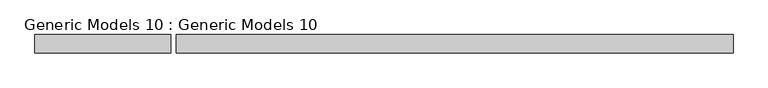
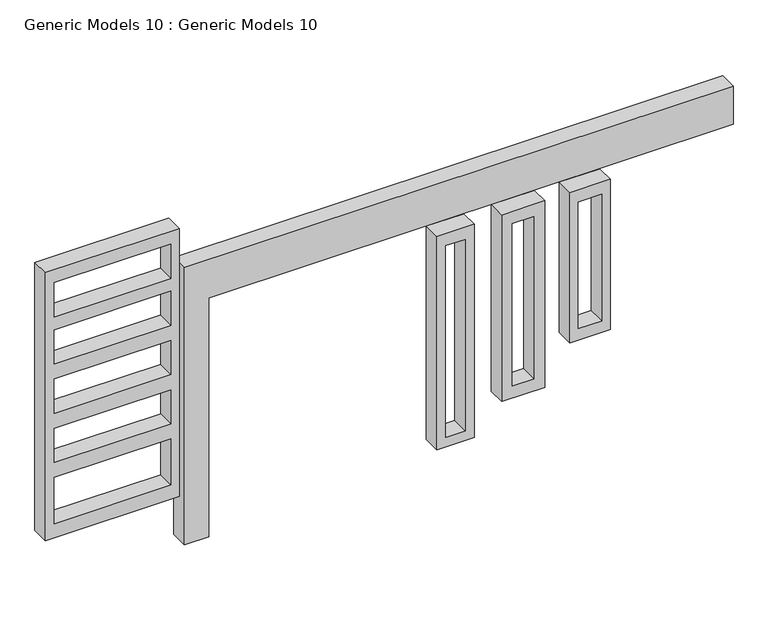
"""IFC4 building model written with IfcOpenShell, lengths in millimetres: proxy geometry, Generic Models 10 : Generic Models 10."""

import ifcopenshell
import ifcopenshell.guid

model = None  # the IFC model being written
_history = None  # IfcOwnerHistory: only IFC2X3 demands one
_inside = {}  # id of a spatial element -> (the spatial element, [elements in it])
_under = {}  # id of a project, library or spatial element -> (it, [spatial elements below it])
_declared = {}  # id of a project -> (the project, [libraries it declares])
_typed = {}  # id of a type object -> (the type object, [elements of that type])
_made_of = {}  # id of a material, layer set ... -> (it, [elements and type objects made of it])


def new_model(schema):
    """Start an empty IFC model of exactly this schema.

    Asked for "IFC4X3", IfcOpenShell would pick the latest addendum, in which some entities
    have other attributes; the version numbers below select the first issue.
    IFC2X3 requires an IfcOwnerHistory on every rooted entity: one is made here for all.
    """
    global model, _history
    if schema == "IFC4X3":
        model = ifcopenshell.file(schema_version=(4, 3, 0, 0))
    else:
        model = ifcopenshell.file(schema=schema)
    _inside.clear()
    _under.clear()
    _declared.clear()
    _typed.clear()
    _made_of.clear()
    _history = None
    if model.schema == "IFC2X3":
        org = make("IfcOrganization", Name="unknown")
        user = make(
            "IfcPersonAndOrganization",
            ThePerson=make("IfcPerson", FamilyName="unknown"),
            TheOrganization=org,
        )
        app = make(
            "IfcApplication",
            ApplicationDeveloper=org,
            Version="unknown",
            ApplicationFullName="unknown",
            ApplicationIdentifier="unknown",
        )
        _history = make(
            "IfcOwnerHistory",
            OwningUser=user,
            OwningApplication=app,
            ChangeAction="ADDED",
            CreationDate=0,
        )
    return model


def make(cls, **values):
    """One entity of the class cls with the attributes given. An attribute that is None is left unset."""
    return model.create_entity(
        cls, **{name: value for name, value in values.items() if value is not None}
    )


def rooted(cls, **values):
    """An entity with a GlobalId (a new one), such as an element, a storey or a relation."""
    return make(cls, GlobalId=ifcopenshell.guid.new(), OwnerHistory=_history, **values)


def si_unit(unit_type, name, prefix=None):
    """IfcSIUnit, for example si_unit("LENGTHUNIT", "METRE", prefix="MILLI")."""
    return make("IfcSIUnit", UnitType=unit_type, Prefix=prefix, Name=name)


def assignment(units):
    """IfcUnitAssignment: the units of a project."""
    return None if units is None else make("IfcUnitAssignment", Units=units)


def point(xyz):
    """IfcCartesianPoint."""
    return None if xyz is None else make("IfcCartesianPoint", Coordinates=xyz)


def direction(xyz):
    """IfcDirection."""
    return None if xyz is None else make("IfcDirection", DirectionRatios=xyz)


def frame(location, z_axis=None, x_axis=None):
    """IfcAxis2Placement3D, a coordinate frame: its origin and axes. An axis left out is left unset."""
    return make(
        "IfcAxis2Placement3D",
        Location=point(location),
        Axis=direction(z_axis),
        RefDirection=direction(x_axis),
    )


def origin():
    """The frame at (0, 0, 0) with its axes left unset."""
    return frame((0.0, 0.0, 0.0))


def place(relative_to, where):
    """IfcLocalPlacement: puts the frame where relative to a parent placement (None: the world)."""
    return make(
        "IfcLocalPlacement", PlacementRelTo=relative_to, RelativePlacement=where
    )


def context(
    kind, dimensions, precision=None, world=None, true_north=None, identifier=None
):
    """IfcGeometricRepresentationContext, for example the 3D "Model" context."""
    return make(
        "IfcGeometricRepresentationContext",
        ContextIdentifier=identifier,
        ContextType=kind,
        CoordinateSpaceDimension=dimensions,
        Precision=precision,
        WorldCoordinateSystem=world,
        TrueNorth=true_north,
    )


def project(units=None, contexts=None):
    """IfcProject with its units and contexts."""
    return rooted(
        "IfcProject",
        Name="project",
        RepresentationContexts=contexts,
        UnitsInContext=assignment(units),
    )


def spatial(cls, under=None, at=None, **own):
    """A site, building, storey or space (cls), placed at a placement, below another one or the project."""
    s = rooted(cls, ObjectPlacement=at, **own)
    if under is not None:
        _under.setdefault(under.id(), (under, []))[1].append(s)
    return s


def polyline(points):
    """IfcPolyline through the points."""
    return make("IfcPolyline", Points=[point(p) for p in points])


def outline(outer, holes=None, kind="AREA"):
    """IfcArbitraryClosedProfileDef: a profile drawn as a closed curve; with holes, ...WithVoids."""
    if holes is None:
        return make("IfcArbitraryClosedProfileDef", ProfileType=kind, OuterCurve=outer)
    return make(
        "IfcArbitraryProfileDefWithVoids",
        ProfileType=kind,
        OuterCurve=outer,
        InnerCurves=holes,
    )


def extrude(swept, where, along, depth):
    """IfcExtrudedAreaSolid: the profile swept, set in the frame where, extruded along a direction by depth."""
    return make(
        "IfcExtrudedAreaSolid",
        SweptArea=swept,
        Position=where,
        ExtrudedDirection=direction(along),
        Depth=depth,
    )


def shape(context_of_items, identifier, shape_type, items):
    """IfcShapeRepresentation: the items that make up one representation, for example the "Body"."""
    return make(
        "IfcShapeRepresentation",
        ContextOfItems=context_of_items,
        RepresentationIdentifier=identifier,
        RepresentationType=shape_type,
        Items=items,
    )


def source(mapping_origin, context_of_items, identifier, shape_type, items):
    """IfcRepresentationMap: a shape defined once, which mapped items show again and again."""
    return make(
        "IfcRepresentationMap",
        MappingOrigin=mapping_origin,
        MappedRepresentation=shape(context_of_items, identifier, shape_type, items),
    )


def transform(
    local_origin,
    x_axis=None,
    y_axis=None,
    z_axis=None,
    scale=None,
    scale2=None,
    scale3=None,
    uniform=True,
):
    """IfcCartesianTransformationOperator3D, or its non-uniform kind. x_axis, y_axis, z_axis: its Axis1, 2, 3."""
    if uniform:
        return make(
            "IfcCartesianTransformationOperator3D",
            Axis1=direction(x_axis),
            Axis2=direction(y_axis),
            LocalOrigin=point(local_origin),
            Scale=scale,
            Axis3=direction(z_axis),
        )
    return make(
        "IfcCartesianTransformationOperator3DnonUniform",
        Axis1=direction(x_axis),
        Axis2=direction(y_axis),
        LocalOrigin=point(local_origin),
        Scale=scale,
        Axis3=direction(z_axis),
        Scale2=scale2,
        Scale3=scale3,
    )


def mapped(mapping_source, mapping_target):
    """IfcMappedItem: shows the shape of a source again, moved by a transform."""
    return make(
        "IfcMappedItem", MappingSource=mapping_source, MappingTarget=mapping_target
    )


def made_of(thing, what):
    """Note that an element or type object is made of a material, layer set ...; save() writes the relation."""
    if what is not None:
        _made_of.setdefault(what.id(), (what, []))[1].append(thing)
    return thing


def element(
    cls,
    number,
    at=None,
    inside=None,
    cuts=None,
    type_object=None,
    material=None,
    context=None,
    identifier="Body",
    shape_type=None,
    held_by="IfcProductDefinitionShape",
    body=None,
    shapes=None,
    **own,
):
    """One element of the class cls, such as IfcWall. Its Tag is "e" and its number.

    at: its placement. inside: the storey or other place that contains it. cuts: it is an
    opening in that element (IfcRelVoidsElement). A single representation is given by context,
    identifier, shape_type and body (its items); several are given by shapes. held_by: the class
    of the entity that holds the representations. save() writes the other relations.
    """
    e = rooted(cls, Tag="e%d" % number, ObjectPlacement=at, **own)
    if body is not None:
        shapes = [shape(context, identifier, shape_type, body)]
    if shapes is not None:
        e.Representation = make(held_by, Representations=shapes)
    if inside is not None:
        _inside.setdefault(inside.id(), (inside, []))[1].append(e)
    if cuts is not None:
        rooted(
            "IfcRelVoidsElement", RelatingBuildingElement=cuts, RelatedOpeningElement=e
        )
    if type_object is not None:
        _typed.setdefault(type_object.id(), (type_object, []))[1].append(e)
    return made_of(e, material)


def aggregate(whole, parts):
    """IfcRelAggregates: a whole, such as a stair, and the parts it consists of."""
    return rooted("IfcRelAggregates", RelatingObject=whole, RelatedObjects=parts)


def save(model, path):
    """Write the relations noted so far, then the file.

    IfcRelAggregates (storeys below a building ...), IfcRelContainedInSpatialStructure (elements
    in a storey), IfcRelDefinesByType, IfcRelAssociatesMaterial and IfcRelDeclares: one each for
    every whole, place, type object, material and project.
    """
    for whole, parts in _under.values():
        aggregate(whole, parts)
    for where, things in _inside.values():
        rooted(
            "IfcRelContainedInSpatialStructure",
            RelatedElements=things,
            RelatingStructure=where,
        )
    for kind, things in _typed.values():
        rooted("IfcRelDefinesByType", RelatedObjects=things, RelatingType=kind)
    for what, things in _made_of.values():
        rooted("IfcRelAssociatesMaterial", RelatedObjects=things, RelatingMaterial=what)
    for by, libraries in _declared.values():
        rooted("IfcRelDeclares", RelatingContext=by, RelatedDefinitions=libraries)
    model.write(path)


def generic_models_10_generic_models_10_8d27cac5(model_context):
    return source(origin(), model_context, "Body", "SweptSolid", [
        extrude(outline(polyline([(360.0, 36026.7574038), (360.0, 36231.5000033), (2480.0, 36231.5000033), (2480.0, 40630.3942411), (2820.0, 40630.3942411), (2820.0, 36026.7574038), (360.0, 36026.7574038)])), frame((0.0, 16766.0716817, 0.0), z_axis=(0.0, 1.0, 0.0), x_axis=(0.0, 0.0, 1.0)), (0.0, 0.0, 1.0), 150.0),
        extrude(outline(polyline([(3183.4761832, 35984.2578668), (3183.4761832, 34860.0), (805.0503469, 34860.0), (805.0503469, 35984.2578668), (3183.4761832, 35984.2578668)]), holes=[polyline([(2765.0503469, 34934.2578668), (3068.91542, 34934.2578668), (3068.91542, 35914.2578668), (2765.0503469, 35914.2578668), (2765.0503469, 34934.2578668)]), polyline([(2650.4895836, 35914.2578668), (2346.6245105, 35914.2578668), (2346.6245105, 34934.2578668), (2650.4895836, 34934.2578668), (2650.4895836, 35914.2578668)]), polyline([(1339.1321709, 34934.2578668), (1339.1321709, 35914.2578668), (930.4895836, 35914.2578668), (930.4895836, 34934.2578668), (1339.1321709, 34934.2578668)]), polyline([(2213.370446, 34934.2578668), (2213.370446, 35914.2578668), (1909.5053729, 35914.2578668), (1909.5053729, 34934.2578668), (2213.370446, 34934.2578668)]), polyline([(1776.2513085, 34934.2578668), (1776.2513085, 35914.2578668), (1472.3862354, 35914.2578668), (1472.3862354, 34934.2578668), (1776.2513085, 34934.2578668)])]), frame((0.0, 16766.0716817, 0.0), z_axis=(0.0, 1.0, 0.0), x_axis=(0.0, 0.0, 1.0)), (0.0, 0.0, 1.0), 150.0),
        extrude(outline(polyline([(2354.8900139, 38458.4843919), (2354.8900139, 38144.6458577), (461.6, 38144.6458577), (461.6, 38458.4843919), (2354.8900139, 38458.4843919)]), holes=[polyline([(2246.4605339, 38382.6378366), (546.4605339, 38382.6378366), (546.4605339, 38219.5023417), (2246.4605339, 38219.5023417), (2246.4605339, 38382.6378366)])]), frame((0.0, 16766.0716817, 0.0), z_axis=(0.0, 1.0, 0.0), x_axis=(0.0, 0.0, 1.0)), (0.0, 0.0, 1.0), 150.0),
        extrude(outline(polyline([(2354.8900139, 39049.5841533), (2354.8900139, 38689.2947749), (700.0, 38689.2947749), (700.0, 39049.5841533), (2354.8900139, 39049.5841533)]), holes=[polyline([(2246.4605339, 38959.3671195), (806.4605339, 38959.3671195), (806.4605339, 38779.3671195), (2246.4605339, 38779.3671195), (2246.4605339, 38959.3671195)])]), frame((0.0, 16766.0716817, 0.0), z_axis=(0.0, 1.0, 0.0), x_axis=(0.0, 0.0, 1.0)), (0.0, 0.0, 1.0), 150.0),
        extrude(outline(polyline([(2354.8900139, 39598.4098439), (2354.8900139, 39260.1431804), (1020.4, 39260.1431804), (1020.4, 39598.4098439), (2354.8900139, 39598.4098439)]), holes=[polyline([(2246.4605339, 39528.0934839), (1122.0, 39528.0934839), (1122.0, 39331.0602301), (2246.4605339, 39331.0602301), (2246.4605339, 39528.0934839)])]), frame((0.0, 16766.0716817, 0.0), z_axis=(0.0, 1.0, 0.0), x_axis=(0.0, 0.0, 1.0)), (0.0, 0.0, 1.0), 150.0),
    ])


if __name__ == "__main__":
    model = new_model("IFC4")
    model_context = context("Model", 3, world=origin())
    ifc_project = project(units=[si_unit("LENGTHUNIT", "METRE", prefix="MILLI")], contexts=[model_context])
    site = spatial("IfcSite", under=ifc_project)
    building = spatial("IfcBuilding", under=site)
    placement = place(None, origin())
    generic_models_10_generic_models_10_shape = generic_models_10_generic_models_10_8d27cac5(model_context)
    element("IfcBuildingElementProxy", 1, Name="Generic Models 10 : Generic Models 10", ObjectType="Generic Models 10 : Generic Models 10", at=placement, inside=building, context=model_context, shape_type="MappedRepresentation", body=[
        mapped(generic_models_10_generic_models_10_shape, transform((0.0, 0.0, 0.0), x_axis=(1.0, 0.0, 0.0), y_axis=(0.0, 1.0, 0.0), z_axis=(0.0, 0.0, 1.0))),
    ])
    save(model, "model.ifc")
